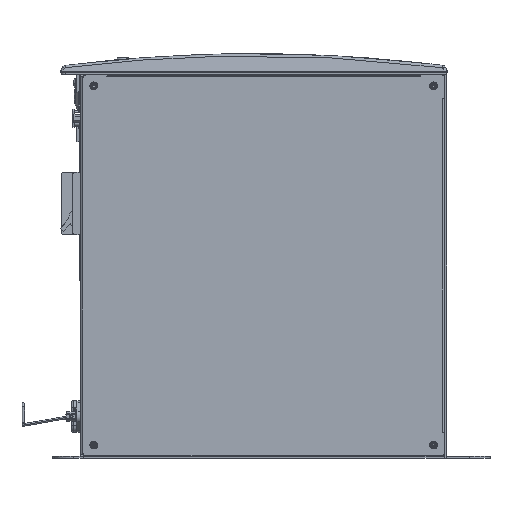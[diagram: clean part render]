
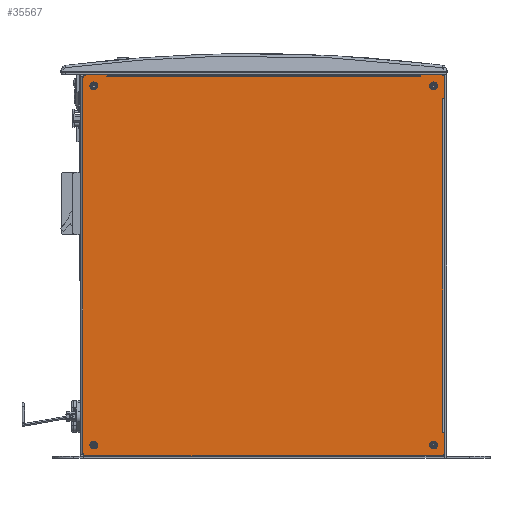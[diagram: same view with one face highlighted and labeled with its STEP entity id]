
A CAD part, left-side view. The second image highlights one B-rep face of the part: STEP entity #35567.
In plain terms, the highlighted planar face has unit normal (-1, 0, 0).
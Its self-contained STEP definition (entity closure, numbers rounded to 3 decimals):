
#35330=DIRECTION('',(0.,-1.,0.));
#35331=VECTOR('',#35330,15.);
#35332=CARTESIAN_POINT('',(-64.5,18.75,137.75));
#35333=LINE('',#35332,#35331);
#35334=CARTESIAN_POINT('',(-64.5,3.75,135.75));
#35335=DIRECTION('',(1.,0.,0.));
#35336=DIRECTION('',(0.,0.,1.));
#35337=AXIS2_PLACEMENT_3D('',#35334,#35335,#35336);
#35339=DIRECTION('',(0.,0.,-1.));
#35340=VECTOR('',#35339,15.);
#35341=CARTESIAN_POINT('',(-64.5,1.75,135.75));
#35342=LINE('',#35341,#35340);
#35343=DIRECTION('',(0.,1.,0.));
#35344=VECTOR('',#35343,1.3);
#35345=CARTESIAN_POINT('',(-64.5,1.75,120.75));
#35346=LINE('',#35345,#35344);
#35347=DIRECTION('',(0.,-1.,0.));
#35348=VECTOR('',#35347,1.3);
#35349=CARTESIAN_POINT('',(-64.5,3.05,-118.75));
#35350=LINE('',#35349,#35348);
#35351=DIRECTION('',(0.,0.,-1.));
#35352=VECTOR('',#35351,15.);
#35353=CARTESIAN_POINT('',(-64.5,1.75,-118.75));
#35354=LINE('',#35353,#35352);
#35355=CARTESIAN_POINT('',(-64.5,3.75,-133.75));
#35356=DIRECTION('',(1.,0.,0.));
#35357=DIRECTION('',(0.,-1.,0.));
#35358=AXIS2_PLACEMENT_3D('',#35355,#35356,#35357);
#35360=DIRECTION('',(0.,1.,0.));
#35361=VECTOR('',#35360,255.5);
#35362=CARTESIAN_POINT('',(-64.5,3.75,-135.75));
#35363=LINE('',#35362,#35361);
#35364=CARTESIAN_POINT('',(-64.5,259.25,-133.75));
#35365=DIRECTION('',(1.,0.,0.));
#35366=DIRECTION('',(0.,0.,-1.));
#35367=AXIS2_PLACEMENT_3D('',#35364,#35365,#35366);
#35369=DIRECTION('',(0.,0.,1.));
#35370=VECTOR('',#35369,269.5);
#35371=CARTESIAN_POINT('',(-64.5,261.25,-133.75));
#35372=LINE('',#35371,#35370);
#35373=CARTESIAN_POINT('',(-64.5,259.25,135.75));
#35374=DIRECTION('',(1.,0.,0.));
#35375=DIRECTION('',(0.,1.,0.));
#35376=AXIS2_PLACEMENT_3D('',#35373,#35374,#35375);
#35378=DIRECTION('',(0.,-1.,0.));
#35379=VECTOR('',#35378,15.);
#35380=CARTESIAN_POINT('',(-64.5,259.25,137.75));
#35381=LINE('',#35380,#35379);
#35382=DIRECTION('',(0.,0.,-1.));
#35383=VECTOR('',#35382,1.3);
#35384=CARTESIAN_POINT('',(-64.5,244.25,137.75));
#35385=LINE('',#35384,#35383);
#35386=DIRECTION('',(0.,-1.,0.));
#35387=VECTOR('',#35386,225.5);
#35388=CARTESIAN_POINT('',(-64.5,244.25,136.45));
#35389=LINE('',#35388,#35387);
#35390=DIRECTION('',(0.,0.,1.));
#35391=VECTOR('',#35390,1.3);
#35392=CARTESIAN_POINT('',(-64.5,18.75,136.45));
#35393=LINE('',#35392,#35391);
#35394=CARTESIAN_POINT('',(-64.5,9.5,-128.));
#35395=DIRECTION('',(-1.,0.,0.));
#35396=DIRECTION('',(0.,0.,1.));
#35397=AXIS2_PLACEMENT_3D('',#35394,#35395,#35396);
#35399=CARTESIAN_POINT('',(-64.5,9.5,-128.));
#35400=DIRECTION('',(-1.,0.,0.));
#35401=DIRECTION('',(0.,0.,-1.));
#35402=AXIS2_PLACEMENT_3D('',#35399,#35400,#35401);
#35404=CARTESIAN_POINT('',(-64.5,9.5,130.));
#35405=DIRECTION('',(-1.,0.,0.));
#35406=DIRECTION('',(0.,0.,1.));
#35407=AXIS2_PLACEMENT_3D('',#35404,#35405,#35406);
#35409=CARTESIAN_POINT('',(-64.5,9.5,130.));
#35410=DIRECTION('',(-1.,0.,0.));
#35411=DIRECTION('',(0.,0.,-1.));
#35412=AXIS2_PLACEMENT_3D('',#35409,#35410,#35411);
#35414=CARTESIAN_POINT('',(-64.5,253.5,130.));
#35415=DIRECTION('',(-1.,0.,0.));
#35416=DIRECTION('',(0.,0.,1.));
#35417=AXIS2_PLACEMENT_3D('',#35414,#35415,#35416);
#35419=CARTESIAN_POINT('',(-64.5,253.5,130.));
#35420=DIRECTION('',(-1.,0.,0.));
#35421=DIRECTION('',(0.,0.,-1.));
#35422=AXIS2_PLACEMENT_3D('',#35419,#35420,#35421);
#35424=CARTESIAN_POINT('',(-64.5,253.5,-128.));
#35425=DIRECTION('',(-1.,0.,0.));
#35426=DIRECTION('',(0.,0.,1.));
#35427=AXIS2_PLACEMENT_3D('',#35424,#35425,#35426);
#35429=CARTESIAN_POINT('',(-64.5,253.5,-128.));
#35430=DIRECTION('',(-1.,0.,0.));
#35431=DIRECTION('',(0.,0.,-1.));
#35432=AXIS2_PLACEMENT_3D('',#35429,#35430,#35431);
#35443=DIRECTION('',(0.,0.,-1.));
#35444=VECTOR('',#35443,239.5);
#35445=CARTESIAN_POINT('',(-64.5,3.05,120.75));
#35446=LINE('',#35445,#35444);
#35452=CARTESIAN_POINT('',(-64.5,261.25,-133.75));
#35453=CARTESIAN_POINT('',(-64.5,259.25,-135.75));
#35454=VERTEX_POINT('',#35452);
#35455=VERTEX_POINT('',#35453);
#35456=CARTESIAN_POINT('',(-64.5,259.25,137.75));
#35457=CARTESIAN_POINT('',(-64.5,261.25,135.75));
#35458=VERTEX_POINT('',#35456);
#35459=VERTEX_POINT('',#35457);
#35460=CARTESIAN_POINT('',(-64.5,1.75,135.75));
#35461=CARTESIAN_POINT('',(-64.5,3.75,137.75));
#35462=VERTEX_POINT('',#35460);
#35463=VERTEX_POINT('',#35461);
#35464=CARTESIAN_POINT('',(-64.5,3.75,-135.75));
#35465=CARTESIAN_POINT('',(-64.5,1.75,-133.75));
#35466=VERTEX_POINT('',#35464);
#35467=VERTEX_POINT('',#35465);
#35468=CARTESIAN_POINT('',(-64.5,253.5,-126.));
#35469=CARTESIAN_POINT('',(-64.5,253.5,-130.));
#35470=VERTEX_POINT('',#35468);
#35471=VERTEX_POINT('',#35469);
#35472=CARTESIAN_POINT('',(-64.5,253.5,132.));
#35473=CARTESIAN_POINT('',(-64.5,253.5,128.));
#35474=VERTEX_POINT('',#35472);
#35475=VERTEX_POINT('',#35473);
#35476=CARTESIAN_POINT('',(-64.5,9.5,132.));
#35477=CARTESIAN_POINT('',(-64.5,9.5,128.));
#35478=VERTEX_POINT('',#35476);
#35479=VERTEX_POINT('',#35477);
#35480=CARTESIAN_POINT('',(-64.5,9.5,-126.));
#35481=CARTESIAN_POINT('',(-64.5,9.5,-130.));
#35482=VERTEX_POINT('',#35480);
#35483=VERTEX_POINT('',#35481);
#35484=CARTESIAN_POINT('',(-64.5,3.05,120.75));
#35485=CARTESIAN_POINT('',(-64.5,1.75,120.75));
#35486=VERTEX_POINT('',#35484);
#35487=VERTEX_POINT('',#35485);
#35488=CARTESIAN_POINT('',(-64.5,3.05,-118.75));
#35489=CARTESIAN_POINT('',(-64.5,1.75,-118.75));
#35490=VERTEX_POINT('',#35488);
#35491=VERTEX_POINT('',#35489);
#35496=CARTESIAN_POINT('',(-64.5,244.25,136.45));
#35497=CARTESIAN_POINT('',(-64.5,244.25,137.75));
#35498=VERTEX_POINT('',#35496);
#35499=VERTEX_POINT('',#35497);
#35500=CARTESIAN_POINT('',(-64.5,18.75,136.45));
#35501=CARTESIAN_POINT('',(-64.5,18.75,137.75));
#35502=VERTEX_POINT('',#35500);
#35503=VERTEX_POINT('',#35501);
#35504=CARTESIAN_POINT('',(-64.5,131.5,1.));
#35505=DIRECTION('',(1.,0.,0.));
#35506=DIRECTION('',(0.,1.,0.));
#35507=AXIS2_PLACEMENT_3D('',#35504,#35505,#35506);
#35508=PLANE('',#35507);
#35510=ORIENTED_EDGE('',*,*,#35509,.T.);
#35512=ORIENTED_EDGE('',*,*,#35511,.T.);
#35514=ORIENTED_EDGE('',*,*,#35513,.T.);
#35516=ORIENTED_EDGE('',*,*,#35515,.T.);
#35518=ORIENTED_EDGE('',*,*,#35517,.T.);
#35520=ORIENTED_EDGE('',*,*,#35519,.T.);
#35522=ORIENTED_EDGE('',*,*,#35521,.T.);
#35524=ORIENTED_EDGE('',*,*,#35523,.T.);
#35526=ORIENTED_EDGE('',*,*,#35525,.T.);
#35528=ORIENTED_EDGE('',*,*,#35527,.T.);
#35530=ORIENTED_EDGE('',*,*,#35529,.T.);
#35532=ORIENTED_EDGE('',*,*,#35531,.T.);
#35534=ORIENTED_EDGE('',*,*,#35533,.T.);
#35536=ORIENTED_EDGE('',*,*,#35535,.T.);
#35538=ORIENTED_EDGE('',*,*,#35537,.T.);
#35540=ORIENTED_EDGE('',*,*,#35539,.T.);
#35541=EDGE_LOOP('',(#35510,#35512,#35514,#35516,#35518,#35520,#35522,#35524,
#35526,#35528,#35530,#35532,#35534,#35536,#35538,#35540));
#35542=FACE_OUTER_BOUND('',#35541,.F.);
#35544=ORIENTED_EDGE('',*,*,#35543,.T.);
#35546=ORIENTED_EDGE('',*,*,#35545,.T.);
#35547=EDGE_LOOP('',(#35544,#35546));
#35548=FACE_BOUND('',#35547,.F.);
#35550=ORIENTED_EDGE('',*,*,#35549,.T.);
#35552=ORIENTED_EDGE('',*,*,#35551,.T.);
#35553=EDGE_LOOP('',(#35550,#35552));
#35554=FACE_BOUND('',#35553,.F.);
#35556=ORIENTED_EDGE('',*,*,#35555,.T.);
#35558=ORIENTED_EDGE('',*,*,#35557,.T.);
#35559=EDGE_LOOP('',(#35556,#35558));
#35560=FACE_BOUND('',#35559,.F.);
#35562=ORIENTED_EDGE('',*,*,#35561,.T.);
#35564=ORIENTED_EDGE('',*,*,#35563,.T.);
#35565=EDGE_LOOP('',(#35562,#35564));
#35566=FACE_BOUND('',#35565,.F.);
#35567=ADVANCED_FACE('',(#35542,#35548,#35554,#35560,#35566),#35508,.F.);
#35338=CIRCLE('',#35337,2.);
#35359=CIRCLE('',#35358,2.);
#35368=CIRCLE('',#35367,2.);
#35377=CIRCLE('',#35376,2.);
#35398=CIRCLE('',#35397,2.);
#35403=CIRCLE('',#35402,2.);
#35408=CIRCLE('',#35407,2.);
#35413=CIRCLE('',#35412,2.);
#35418=CIRCLE('',#35417,2.);
#35423=CIRCLE('',#35422,2.);
#35428=CIRCLE('',#35427,2.);
#35433=CIRCLE('',#35432,2.);
#35509=EDGE_CURVE('',#35503,#35463,#35333,.T.);
#35511=EDGE_CURVE('',#35463,#35462,#35338,.T.);
#35513=EDGE_CURVE('',#35462,#35487,#35342,.T.);
#35515=EDGE_CURVE('',#35487,#35486,#35346,.T.);
#35517=EDGE_CURVE('',#35486,#35490,#35446,.T.);
#35519=EDGE_CURVE('',#35490,#35491,#35350,.T.);
#35521=EDGE_CURVE('',#35491,#35467,#35354,.T.);
#35523=EDGE_CURVE('',#35467,#35466,#35359,.T.);
#35525=EDGE_CURVE('',#35466,#35455,#35363,.T.);
#35527=EDGE_CURVE('',#35455,#35454,#35368,.T.);
#35529=EDGE_CURVE('',#35454,#35459,#35372,.T.);
#35531=EDGE_CURVE('',#35459,#35458,#35377,.T.);
#35533=EDGE_CURVE('',#35458,#35499,#35381,.T.);
#35535=EDGE_CURVE('',#35499,#35498,#35385,.T.);
#35537=EDGE_CURVE('',#35498,#35502,#35389,.T.);
#35539=EDGE_CURVE('',#35502,#35503,#35393,.T.);
#35543=EDGE_CURVE('',#35482,#35483,#35398,.T.);
#35545=EDGE_CURVE('',#35483,#35482,#35403,.T.);
#35549=EDGE_CURVE('',#35478,#35479,#35408,.T.);
#35551=EDGE_CURVE('',#35479,#35478,#35413,.T.);
#35555=EDGE_CURVE('',#35474,#35475,#35418,.T.);
#35557=EDGE_CURVE('',#35475,#35474,#35423,.T.);
#35561=EDGE_CURVE('',#35470,#35471,#35428,.T.);
#35563=EDGE_CURVE('',#35471,#35470,#35433,.T.);
